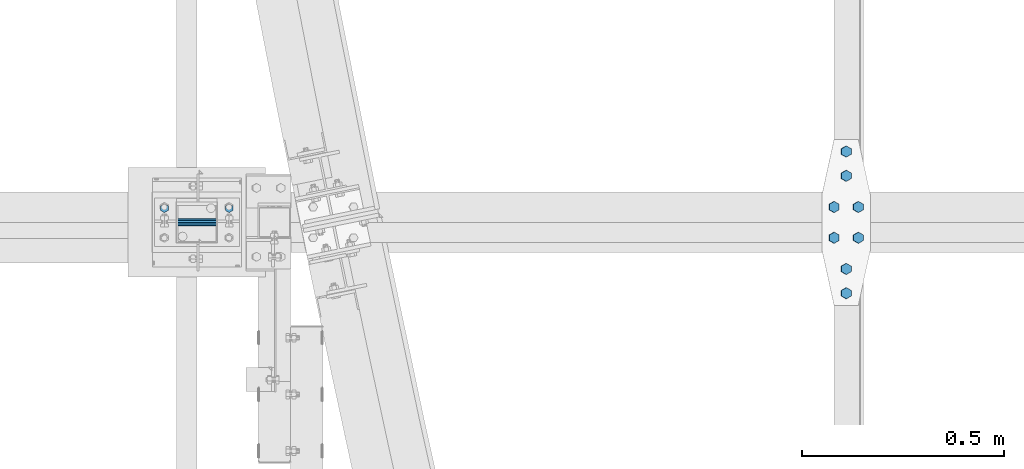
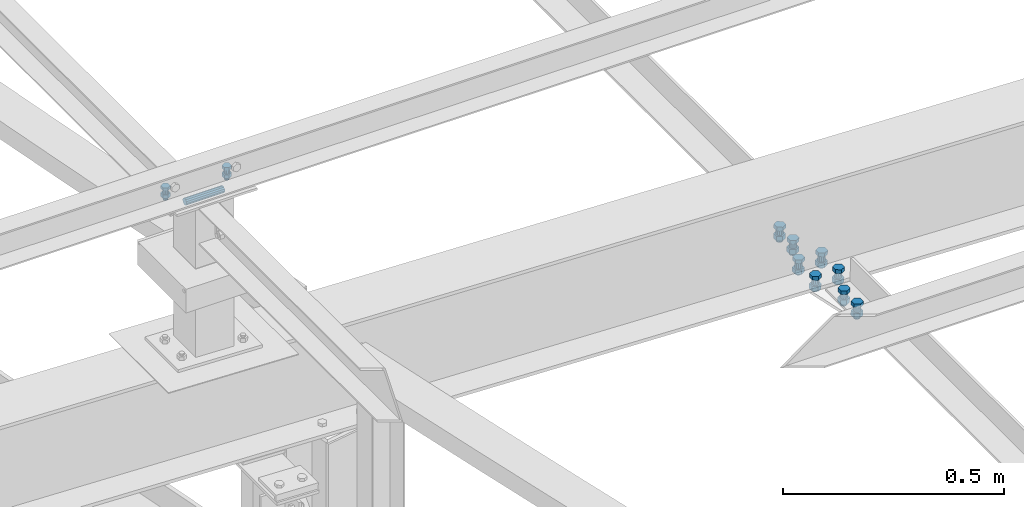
# One storey, part 67 of 3134: 5 mechanical fasteners, 4 elements without a shape of their own.
"""IFC2X3 building model written with IfcOpenShell, lengths in millimetres."""

from ifc_helpers import new_model, si_unit, frame, origin_with_axes, place, context, subcontext, project, spatial, faceted_brep, source, transform, mapped, material, type_object, element, aggregate, save


model = new_model("IFC2X3")

# Units and contexts
model_context = context("Model", 3, precision=1e-05, world=origin_with_axes())
body_context = subcontext(model_context, "Body", "Model", "MODEL_VIEW")
ifc_project = project(units=[si_unit("LENGTHUNIT", "METRE", prefix="MILLI"), si_unit("AREAUNIT", "SQUARE_METRE"), si_unit("VOLUMEUNIT", "CUBIC_METRE"), si_unit("MASSUNIT", "GRAM", prefix="KILO"), si_unit("TIMEUNIT", "SECOND"), si_unit("PLANEANGLEUNIT", "RADIAN"), si_unit("SOLIDANGLEUNIT", "STERADIAN"), si_unit("THERMODYNAMICTEMPERATUREUNIT", "DEGREE_CELSIUS"), si_unit("LUMINOUSINTENSITYUNIT", "LUMEN")], contexts=[model_context])

# Site, building, storey
site_placement = place(None, origin_with_axes())
site = spatial("IfcSite", under=ifc_project, at=site_placement, CompositionType="ELEMENT")
building_placement = place(site_placement, origin_with_axes())
building = spatial("IfcBuilding", under=site, at=building_placement, Name="Undefined", CompositionType="ELEMENT")
storey_placement = place(building_placement, origin_with_axes())
storey = spatial("IfcBuildingStorey", under=building, at=storey_placement, Name="Undefined", CompositionType="ELEMENT", Elevation=0.0)

# Assembly, mechanical fastener
assembly_1_placement = place(storey_placement, origin_with_axes())
assembly_1 = element("IfcElementAssembly", 1, at=assembly_1_placement, inside=storey, AssemblyPlace="NOTDEFINED", PredefinedType="RIGID_FRAME")
ifc_material = material(Name="8.8")
mechanical_fastener_type = type_object("IfcMechanicalFastenerType", Name="Bolt assembly")
shared_shape_1 = source(origin_with_axes(), body_context, "Body", "Brep", [
    faceted_brep([(10.9696551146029, -14.0, 0.0), (5.48482755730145, -14.0, 9.5), (-5.48482755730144, -14.0, 9.5), (-10.9696551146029, -14.0, 1.34339530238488e-15), (-5.48482755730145, -14.0, -9.5), (5.48482755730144, -14.0, -9.50000000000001), (5.48482755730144, -6.0, -9.50000000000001), (-5.48482755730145, -6.0, -9.5), (-10.9696551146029, -6.0, 1.34339530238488e-15), (-5.48482755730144, -6.0, 9.5), (5.48482755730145, -6.0, 9.5), (10.9696551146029, -6.0, 0.0), (6.0, -6.0, 0.0), (5.19615242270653, -6.0, 3.00000000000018), (2.99999999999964, -6.0, 5.19615242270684), (-6.21801588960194e-13, -6.0, 6.0), (-3.00000000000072, -6.0, 5.19615242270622), (-5.19615242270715, -6.0, 2.9999999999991), (-6.0, -6.0, -1.24360317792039e-12), (-5.19615242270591, -6.0, -3.00000000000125), (-2.99999999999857, -6.0, -5.19615242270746), (1.85874342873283e-12, -6.0, -6.0), (3.00000000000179, -6.0, -5.1961524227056), (5.19615242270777, -6.0, -2.99999999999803), (5.19615242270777, 24.0, -2.99999999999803), (3.00000000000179, 24.0, -5.1961524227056), (1.85874342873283e-12, 24.0, -6.0), (-2.99999999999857, 24.0, -5.19615242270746), (-5.19615242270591, 24.0, -3.00000000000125), (-6.0, 24.0, -1.24360317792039e-12), (-5.19615242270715, 24.0, 2.9999999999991), (-3.00000000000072, 24.0, 5.19615242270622), (-6.21801588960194e-13, 24.0, 6.0), (2.99999999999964, 24.0, 5.19615242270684), (5.19615242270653, 24.0, 3.00000000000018), (6.0, 24.0, 0.0), (10.9696551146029, 6.00000000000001, 0.0), (5.48482755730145, 6.00000000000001, 9.5), (-5.48482755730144, 6.00000000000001, 9.5), (-10.9696551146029, 6.00000000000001, 1.34339530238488e-15), (-5.48482755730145, 6.00000000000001, -9.5), (5.48482755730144, 6.00000000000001, -9.50000000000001), (5.48482755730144, 16.0, -9.50000000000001), (-5.48482755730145, 16.0, -9.5), (-10.9696551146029, 16.0, 1.34339530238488e-15), (-5.48482755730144, 16.0, 9.5), (5.48482755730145, 16.0, 9.5), (10.9696551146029, 16.0, 0.0)], [[[0, 1, 2, 3, 4, 5]], [[6, 7, 8, 9, 10, 11]], [[0, 11, 10, 1]], [[1, 10, 9, 2]], [[2, 9, 8, 3]], [[3, 8, 7, 4]], [[4, 7, 6, 5]], [[5, 6, 11, 0]], [[12, 13, 14, 15, 16, 17, 18, 19, 20, 21, 22, 23]], [[24, 25, 26, 27, 28, 29, 30, 31, 32, 33, 34, 35]], [[12, 35, 34, 13]], [[13, 34, 33, 14]], [[14, 33, 32, 15]], [[15, 32, 31, 16]], [[16, 31, 30, 17]], [[17, 30, 29, 18]], [[18, 29, 28, 19]], [[19, 28, 27, 20]], [[20, 27, 26, 21]], [[21, 26, 25, 22]], [[22, 25, 24, 23]], [[23, 24, 35, 12]], [[36, 37, 38, 39, 40, 41]], [[42, 43, 44, 45, 46, 47]], [[36, 47, 46, 37]], [[37, 46, 45, 38]], [[38, 45, 44, 39]], [[39, 44, 43, 40]], [[40, 43, 42, 41]], [[41, 42, 47, 36]]]),
    faceted_brep([(7.0, -0.1, 0.0), (6.06217782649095, -0.1, 3.50000000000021), (3.49999999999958, -0.1, 6.06217782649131), (-7.25435187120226e-13, -0.1, 7.0), (-3.50000000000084, -0.1, 6.06217782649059), (-6.06217782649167, -0.1, 3.49999999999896), (-7.0, -0.1, -1.45087037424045e-12), (-6.06217782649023, -0.1, -3.50000000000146), (-3.49999999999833, -0.1, -6.06217782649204), (2.1685340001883e-12, -0.1, -7.0), (3.50000000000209, -0.1, -6.06217782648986), (6.0621778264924, -0.1, -3.4999999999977), (6.0621778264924, 6.00000000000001, -3.4999999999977), (3.50000000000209, 6.00000000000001, -6.06217782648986), (2.1685340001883e-12, 6.00000000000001, -7.0), (-3.49999999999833, 6.00000000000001, -6.06217782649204), (-6.06217782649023, 6.00000000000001, -3.50000000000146), (-7.0, 6.00000000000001, -1.45087037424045e-12), (-6.06217782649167, 6.00000000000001, 3.49999999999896), (-3.50000000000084, 6.00000000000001, 6.06217782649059), (-7.25435187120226e-13, 6.00000000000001, 7.0), (3.49999999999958, 6.00000000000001, 6.06217782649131), (6.06217782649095, 6.00000000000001, 3.50000000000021), (7.0, 6.00000000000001, 0.0), (7.0, -5.9, 0.0), (6.06217782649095, -5.9, 3.50000000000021), (3.49999999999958, -5.9, 6.06217782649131), (-7.25435187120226e-13, -5.9, 7.0), (-3.50000000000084, -5.9, 6.06217782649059), (-6.06217782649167, -5.9, 3.49999999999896), (-7.0, -5.9, -1.45087037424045e-12), (-6.06217782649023, -5.9, -3.50000000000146), (-3.49999999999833, -5.9, -6.06217782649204), (2.1685340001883e-12, -5.9, -7.0), (3.50000000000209, -5.9, -6.06217782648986), (6.0621778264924, -5.9, -3.4999999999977), (6.0621778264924, 0.0999999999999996, -3.4999999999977), (3.50000000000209, 0.0999999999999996, -6.06217782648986), (2.1685340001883e-12, 0.0999999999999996, -7.0), (-3.49999999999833, 0.0999999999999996, -6.06217782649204), (-6.06217782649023, 0.0999999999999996, -3.50000000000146), (-7.0, 0.0999999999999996, -1.45087037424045e-12), (-6.06217782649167, 0.0999999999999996, 3.49999999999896), (-3.50000000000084, 0.0999999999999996, 6.06217782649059), (-7.25435187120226e-13, 0.0999999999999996, 7.0), (3.49999999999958, 0.0999999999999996, 6.06217782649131), (6.06217782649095, 0.0999999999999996, 3.50000000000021), (7.0, 0.0999999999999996, 0.0)], [[[0, 1, 2, 3, 4, 5, 6, 7, 8, 9, 10, 11]], [[12, 13, 14, 15, 16, 17, 18, 19, 20, 21, 22, 23]], [[0, 23, 22, 1]], [[1, 22, 21, 2]], [[2, 21, 20, 3]], [[3, 20, 19, 4]], [[4, 19, 18, 5]], [[5, 18, 17, 6]], [[6, 17, 16, 7]], [[7, 16, 15, 8]], [[8, 15, 14, 9]], [[9, 14, 13, 10]], [[10, 13, 12, 11]], [[11, 12, 23, 0]], [[24, 25, 26, 27, 28, 29, 30, 31, 32, 33, 34, 35]], [[36, 37, 38, 39, 40, 41, 42, 43, 44, 45, 46, 47]], [[24, 47, 46, 25]], [[25, 46, 45, 26]], [[26, 45, 44, 27]], [[27, 44, 43, 28]], [[28, 43, 42, 29]], [[29, 42, 41, 30]], [[30, 41, 40, 31]], [[31, 40, 39, 32]], [[32, 39, 38, 33]], [[33, 38, 37, 34]], [[34, 37, 36, 35]], [[35, 36, 47, 24]]]),
])
mechanical_fastener_1_placement = place(assembly_1_placement, frame((3043.33, 24547.5, 4365.0), z_axis=(1.0, 0.0, 0.0), x_axis=(0.0, -1.0, 0.0)))
mechanical_fastener_1 = element("IfcMechanicalFastener", 2, at=mechanical_fastener_1_placement, type_object=mechanical_fastener_type, material=ifc_material, Name="Bolt assembly", NominalDiameter=12.0, NominalLength=30.0, context=body_context, shape_type="MappedRepresentation", body=[
    mapped(shared_shape_1, transform((0.0, -5.32963895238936e-10, -79.9999999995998))),
    mapped(shared_shape_1, transform((0.0, 5.3114490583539e-10, 79.9999999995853))),
])
aggregate(assembly_1, [mechanical_fastener_1])

assembly_2_placement = place(storey_placement, origin_with_axes())
assembly_2 = element("IfcElementAssembly", 3, at=assembly_2_placement, inside=storey, Name="PL8", AssemblyPlace="NOTDEFINED", PredefinedType="RIGID_FRAME")
shared_shape_2 = source(origin_with_axes(), body_context, "Body", "Brep", [
    faceted_brep([(13.856406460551, -21.0000017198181, 0.0), (6.92820323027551, -21.0000017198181, 12.0), (-6.92820323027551, -21.0000017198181, 12.0), (-13.856406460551, -21.0000017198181, 1.69692038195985e-15), (-6.92820323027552, -21.0000017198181, -12.0), (6.9282032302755, -21.0000017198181, -12.0), (6.9282032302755, -11.0000017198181, -12.0), (-6.92820323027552, -11.0000017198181, -12.0), (-13.856406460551, -11.0000017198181, 1.69692038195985e-15), (-6.92820323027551, -11.0000017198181, 12.0), (6.92820323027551, -11.0000017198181, 12.0), (13.856406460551, -11.0000017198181, 0.0), (8.0, -11.0000017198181, 0.0), (6.92820323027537, -11.0000017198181, 4.00000000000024), (3.99999999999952, -11.0000017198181, 6.92820323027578), (-8.29068785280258e-13, -11.0000017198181, 8.0), (-4.00000000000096, -11.0000017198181, 6.92820323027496), (-6.9282032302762, -11.0000017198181, 3.99999999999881), (-8.0, -11.0000017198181, -1.65813757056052e-12), (-6.92820323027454, -11.0000017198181, -4.00000000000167), (-3.99999999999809, -11.0000017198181, -6.92820323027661), (2.47832457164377e-12, -11.0000017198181, -8.0), (4.00000000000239, -11.0000017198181, -6.92820323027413), (6.92820323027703, -11.0000017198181, -3.99999999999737), (6.92820323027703, 23.9999999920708, -3.99999999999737), (4.00000000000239, 23.9999999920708, -6.92820323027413), (2.47832457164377e-12, 23.9999999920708, -8.0), (-3.99999999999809, 23.9999999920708, -6.92820323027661), (-6.92820323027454, 23.9999999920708, -4.00000000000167), (-8.0, 23.9999999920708, -1.65813757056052e-12), (-6.9282032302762, 23.9999999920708, 3.99999999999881), (-4.00000000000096, 23.9999999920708, 6.92820323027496), (-8.29068785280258e-13, 23.9999999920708, 8.0), (3.99999999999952, 23.9999999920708, 6.92820323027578), (6.92820323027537, 23.9999999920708, 4.00000000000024), (8.0, 23.9999999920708, 0.0), (13.856406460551, 3.99999999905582, 0.0), (6.92820323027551, 3.99999999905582, 12.0), (-6.92820323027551, 3.99999999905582, 12.0), (-13.856406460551, 3.99999999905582, 1.69692038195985e-15), (-6.92820323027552, 3.99999999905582, -12.0), (6.9282032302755, 3.99999999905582, -12.0), (6.9282032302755, 16.9999999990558, -12.0), (-6.92820323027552, 16.9999999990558, -12.0), (-13.856406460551, 16.9999999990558, 1.69692038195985e-15), (-6.92820323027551, 16.9999999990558, 12.0), (6.92820323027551, 16.9999999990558, 12.0), (13.856406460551, 16.9999999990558, 0.0)], [[[0, 1, 2, 3, 4, 5]], [[6, 7, 8, 9, 10, 11]], [[0, 11, 10, 1]], [[1, 10, 9, 2]], [[2, 9, 8, 3]], [[3, 8, 7, 4]], [[4, 7, 6, 5]], [[5, 6, 11, 0]], [[12, 13, 14, 15, 16, 17, 18, 19, 20, 21, 22, 23]], [[24, 25, 26, 27, 28, 29, 30, 31, 32, 33, 34, 35]], [[12, 35, 34, 13]], [[13, 34, 33, 14]], [[14, 33, 32, 15]], [[15, 32, 31, 16]], [[16, 31, 30, 17]], [[17, 30, 29, 18]], [[18, 29, 28, 19]], [[19, 28, 27, 20]], [[20, 27, 26, 21]], [[21, 26, 25, 22]], [[22, 25, 24, 23]], [[23, 24, 35, 12]], [[36, 37, 38, 39, 40, 41]], [[42, 43, 44, 45, 46, 47]], [[36, 47, 46, 37]], [[37, 46, 45, 38]], [[38, 45, 44, 39]], [[39, 44, 43, 40]], [[40, 43, 42, 41]], [[41, 42, 47, 36]]]),
    faceted_brep([(9.0, -10.9000017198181, 0.0), (7.79422863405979, -10.9000017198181, 4.50000000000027), (4.49999999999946, -10.9000017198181, 7.79422863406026), (-9.3270238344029e-13, -10.9000017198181, 9.0), (-4.50000000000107, -10.9000017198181, 7.79422863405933), (-7.79422863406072, -10.9000017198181, 4.49999999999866), (-9.0, -10.9000017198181, -1.86540476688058e-12), (-7.79422863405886, -10.9000017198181, -4.50000000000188), (-4.49999999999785, -10.9000017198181, -7.79422863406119), (2.78811514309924e-12, -10.9000017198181, -9.0), (4.50000000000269, -10.9000017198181, -7.7942286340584), (7.79422863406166, -10.9000017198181, -4.49999999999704), (7.79422863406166, -3.9, -4.49999999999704), (4.50000000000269, -3.9, -7.7942286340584), (2.78811514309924e-12, -3.9, -9.0), (-4.49999999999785, -3.9, -7.79422863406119), (-7.79422863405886, -3.9, -4.50000000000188), (-9.0, -3.9, -1.86540476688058e-12), (-7.79422863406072, -3.9, 4.49999999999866), (-4.50000000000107, -3.9, 7.79422863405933), (-9.3270238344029e-13, -3.9, 9.0), (4.49999999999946, -3.9, 7.79422863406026), (7.79422863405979, -3.9, 4.50000000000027), (9.0, -3.9, 0.0), (9.0, -4.10000000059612, 0.0), (7.79422863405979, -4.10000000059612, 4.50000000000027), (4.49999999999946, -4.10000000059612, 7.79422863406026), (-9.3270238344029e-13, -4.10000000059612, 9.0), (-4.50000000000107, -4.10000000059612, 7.79422863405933), (-7.79422863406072, -4.10000000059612, 4.49999999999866), (-9.0, -4.10000000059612, -1.86540476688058e-12), (-7.79422863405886, -4.10000000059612, -4.50000000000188), (-4.49999999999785, -4.10000000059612, -7.79422863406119), (2.78811514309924e-12, -4.10000000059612, -9.0), (4.50000000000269, -4.10000000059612, -7.7942286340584), (7.79422863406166, -4.10000000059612, -4.49999999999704), (7.79422863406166, 4.00000375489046, -4.49999999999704), (4.50000000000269, 4.00000375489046, -7.7942286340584), (2.78811514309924e-12, 4.00000375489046, -9.0), (-4.49999999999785, 4.00000375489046, -7.79422863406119), (-7.79422863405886, 4.00000375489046, -4.50000000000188), (-9.0, 4.00000375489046, -1.86540476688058e-12), (-7.79422863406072, 4.00000375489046, 4.49999999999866), (-4.50000000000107, 4.00000375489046, 7.79422863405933), (-9.3270238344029e-13, 4.00000375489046, 9.0), (4.49999999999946, 4.00000375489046, 7.79422863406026), (7.79422863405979, 4.00000375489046, 4.50000000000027), (9.0, 4.00000375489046, 0.0)], [[[0, 1, 2, 3, 4, 5, 6, 7, 8, 9, 10, 11]], [[12, 13, 14, 15, 16, 17, 18, 19, 20, 21, 22, 23]], [[0, 23, 22, 1]], [[1, 22, 21, 2]], [[2, 21, 20, 3]], [[3, 20, 19, 4]], [[4, 19, 18, 5]], [[5, 18, 17, 6]], [[6, 17, 16, 7]], [[7, 16, 15, 8]], [[8, 15, 14, 9]], [[9, 14, 13, 10]], [[10, 13, 12, 11]], [[11, 12, 23, 0]], [[24, 25, 26, 27, 28, 29, 30, 31, 32, 33, 34, 35]], [[36, 37, 38, 39, 40, 41, 42, 43, 44, 45, 46, 47]], [[24, 47, 46, 25]], [[25, 46, 45, 26]], [[26, 45, 44, 27]], [[27, 44, 43, 28]], [[28, 43, 42, 29]], [[29, 42, 41, 30]], [[30, 41, 40, 31]], [[31, 40, 39, 32]], [[32, 39, 38, 33]], [[33, 38, 37, 34]], [[34, 37, 36, 35]], [[35, 36, 47, 24]]]),
])
mechanical_fastener_2_placement = place(assembly_2_placement, frame((4647.50483525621, 24627.5, 3576.15051900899), z_axis=(-0.999388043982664, 0.0, 0.0349791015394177), x_axis=(0.0, 1.0, 0.0)))
mechanical_fastener_2 = element("IfcMechanicalFastener", 4, at=mechanical_fastener_2_placement, type_object=mechanical_fastener_type, material=ifc_material, Name="Bolt assembly", NominalDiameter=16.0, NominalLength=35.0, context=body_context, shape_type="MappedRepresentation", body=[
    mapped(shared_shape_2, transform((0.0, 0.0, 0.0))),
    mapped(shared_shape_2, transform((59.9999999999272, 0.0, 5.40239852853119e-10))),
])

assembly_3_placement = place(storey_placement, origin_with_axes())
assembly_3 = element("IfcElementAssembly", 5, at=assembly_3_placement, inside=storey, AssemblyPlace="NOTDEFINED", PredefinedType="RIGID_FRAME")
shared_shape_3 = source(origin_with_axes(), body_context, "Body", "Brep", [
    faceted_brep([(13.856406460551, -21.0000017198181, 0.0), (6.92820323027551, -21.0000017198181, 12.0), (-6.92820323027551, -21.0000017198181, 12.0), (-13.856406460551, -21.0000017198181, 1.69692038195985e-15), (-6.92820323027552, -21.0000017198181, -12.0), (6.9282032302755, -21.0000017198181, -12.0), (6.9282032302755, -11.0000017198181, -12.0), (-6.92820323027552, -11.0000017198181, -12.0), (-13.856406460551, -11.0000017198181, 1.69692038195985e-15), (-6.92820323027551, -11.0000017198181, 12.0), (6.92820323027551, -11.0000017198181, 12.0), (13.856406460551, -11.0000017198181, 0.0), (8.0, -11.0000017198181, 0.0), (6.92820323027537, -11.0000017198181, 4.00000000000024), (3.99999999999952, -11.0000017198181, 6.92820323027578), (-8.29068785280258e-13, -11.0000017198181, 8.0), (-4.00000000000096, -11.0000017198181, 6.92820323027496), (-6.9282032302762, -11.0000017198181, 3.99999999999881), (-8.0, -11.0000017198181, -1.65813757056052e-12), (-6.92820323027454, -11.0000017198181, -4.00000000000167), (-3.99999999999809, -11.0000017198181, -6.92820323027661), (2.47832457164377e-12, -11.0000017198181, -8.0), (4.00000000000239, -11.0000017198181, -6.92820323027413), (6.92820323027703, -11.0000017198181, -3.99999999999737), (6.92820323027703, 23.9999999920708, -3.99999999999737), (4.00000000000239, 23.9999999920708, -6.92820323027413), (2.47832457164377e-12, 23.9999999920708, -8.0), (-3.99999999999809, 23.9999999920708, -6.92820323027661), (-6.92820323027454, 23.9999999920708, -4.00000000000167), (-8.0, 23.9999999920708, -1.65813757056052e-12), (-6.9282032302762, 23.9999999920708, 3.99999999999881), (-4.00000000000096, 23.9999999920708, 6.92820323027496), (-8.29068785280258e-13, 23.9999999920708, 8.0), (3.99999999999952, 23.9999999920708, 6.92820323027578), (6.92820323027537, 23.9999999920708, 4.00000000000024), (8.0, 23.9999999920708, 0.0), (13.856406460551, 3.99999999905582, 0.0), (6.92820323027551, 3.99999999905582, 12.0), (-6.92820323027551, 3.99999999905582, 12.0), (-13.856406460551, 3.99999999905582, 1.69692038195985e-15), (-6.92820323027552, 3.99999999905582, -12.0), (6.9282032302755, 3.99999999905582, -12.0), (6.9282032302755, 16.9999999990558, -12.0), (-6.92820323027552, 16.9999999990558, -12.0), (-13.856406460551, 16.9999999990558, 1.69692038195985e-15), (-6.92820323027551, 16.9999999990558, 12.0), (6.92820323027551, 16.9999999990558, 12.0), (13.856406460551, 16.9999999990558, 0.0)], [[[0, 1, 2, 3, 4, 5]], [[6, 7, 8, 9, 10, 11]], [[0, 11, 10, 1]], [[1, 10, 9, 2]], [[2, 9, 8, 3]], [[3, 8, 7, 4]], [[4, 7, 6, 5]], [[5, 6, 11, 0]], [[12, 13, 14, 15, 16, 17, 18, 19, 20, 21, 22, 23]], [[24, 25, 26, 27, 28, 29, 30, 31, 32, 33, 34, 35]], [[12, 35, 34, 13]], [[13, 34, 33, 14]], [[14, 33, 32, 15]], [[15, 32, 31, 16]], [[16, 31, 30, 17]], [[17, 30, 29, 18]], [[18, 29, 28, 19]], [[19, 28, 27, 20]], [[20, 27, 26, 21]], [[21, 26, 25, 22]], [[22, 25, 24, 23]], [[23, 24, 35, 12]], [[36, 37, 38, 39, 40, 41]], [[42, 43, 44, 45, 46, 47]], [[36, 47, 46, 37]], [[37, 46, 45, 38]], [[38, 45, 44, 39]], [[39, 44, 43, 40]], [[40, 43, 42, 41]], [[41, 42, 47, 36]]]),
    faceted_brep([(9.0, -4.10000000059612, 0.0), (7.79422863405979, -4.10000000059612, 4.50000000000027), (4.49999999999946, -4.10000000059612, 7.79422863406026), (-9.3270238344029e-13, -4.10000000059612, 9.0), (-4.50000000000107, -4.10000000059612, 7.79422863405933), (-7.79422863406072, -4.10000000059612, 4.49999999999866), (-9.0, -4.10000000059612, -1.86540476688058e-12), (-7.79422863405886, -4.10000000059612, -4.50000000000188), (-4.49999999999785, -4.10000000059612, -7.79422863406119), (2.78811514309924e-12, -4.10000000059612, -9.0), (4.50000000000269, -4.10000000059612, -7.7942286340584), (7.79422863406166, -4.10000000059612, -4.49999999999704), (7.79422863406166, 4.00000375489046, -4.49999999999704), (4.50000000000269, 4.00000375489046, -7.7942286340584), (2.78811514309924e-12, 4.00000375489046, -9.0), (-4.49999999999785, 4.00000375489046, -7.79422863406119), (-7.79422863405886, 4.00000375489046, -4.50000000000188), (-9.0, 4.00000375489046, -1.86540476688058e-12), (-7.79422863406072, 4.00000375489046, 4.49999999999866), (-4.50000000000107, 4.00000375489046, 7.79422863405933), (-9.3270238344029e-13, 4.00000375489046, 9.0), (4.49999999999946, 4.00000375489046, 7.79422863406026), (7.79422863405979, 4.00000375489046, 4.50000000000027), (9.0, 4.00000375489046, 0.0), (9.0, -10.9000017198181, 0.0), (7.79422863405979, -10.9000017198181, 4.50000000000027), (4.49999999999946, -10.9000017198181, 7.79422863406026), (-9.3270238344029e-13, -10.9000017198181, 9.0), (-4.50000000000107, -10.9000017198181, 7.79422863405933), (-7.79422863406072, -10.9000017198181, 4.49999999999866), (-9.0, -10.9000017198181, -1.86540476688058e-12), (-7.79422863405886, -10.9000017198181, -4.50000000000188), (-4.49999999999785, -10.9000017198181, -7.79422863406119), (2.78811514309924e-12, -10.9000017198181, -9.0), (4.50000000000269, -10.9000017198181, -7.7942286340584), (7.79422863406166, -10.9000017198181, -4.49999999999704), (7.79422863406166, -3.9, -4.49999999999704), (4.50000000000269, -3.9, -7.7942286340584), (2.78811514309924e-12, -3.9, -9.0), (-4.49999999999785, -3.9, -7.79422863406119), (-7.79422863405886, -3.9, -4.50000000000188), (-9.0, -3.9, -1.86540476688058e-12), (-7.79422863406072, -3.9, 4.49999999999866), (-4.50000000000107, -3.9, 7.79422863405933), (-9.3270238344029e-13, -3.9, 9.0), (4.49999999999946, -3.9, 7.79422863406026), (7.79422863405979, -3.9, 4.50000000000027), (9.0, -3.9, 0.0)], [[[0, 1, 2, 3, 4, 5, 6, 7, 8, 9, 10, 11]], [[12, 13, 14, 15, 16, 17, 18, 19, 20, 21, 22, 23]], [[0, 23, 22, 1]], [[1, 22, 21, 2]], [[2, 21, 20, 3]], [[3, 20, 19, 4]], [[4, 19, 18, 5]], [[5, 18, 17, 6]], [[6, 17, 16, 7]], [[7, 16, 15, 8]], [[8, 15, 14, 9]], [[9, 14, 13, 10]], [[10, 13, 12, 11]], [[11, 12, 23, 0]], [[24, 25, 26, 27, 28, 29, 30, 31, 32, 33, 34, 35]], [[36, 37, 38, 39, 40, 41, 42, 43, 44, 45, 46, 47]], [[24, 47, 46, 25]], [[25, 46, 45, 26]], [[26, 45, 44, 27]], [[27, 44, 43, 28]], [[28, 43, 42, 29]], [[29, 42, 41, 30]], [[30, 41, 40, 31]], [[31, 40, 39, 32]], [[32, 39, 38, 33]], [[33, 38, 37, 34]], [[34, 37, 36, 35]], [[35, 36, 47, 24]]]),
])
mechanical_fastener_3_placement = place(assembly_3_placement, frame((4647.50483526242, 24337.5, 3576.15051900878), z_axis=(-0.999388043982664, 0.0, 0.0349791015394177), x_axis=(0.0, 1.0, 0.0)))
mechanical_fastener_3 = element("IfcMechanicalFastener", 6, at=mechanical_fastener_3_placement, type_object=mechanical_fastener_type, material=ifc_material, Name="Bolt assembly", NominalDiameter=16.0, NominalLength=35.0, context=body_context, shape_type="MappedRepresentation", body=[
    mapped(shared_shape_3, transform((0.0, 0.0, 0.0))),
    mapped(shared_shape_3, transform((59.9999999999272, 0.0, 5.40239852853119e-10))),
])
aggregate(assembly_3, [mechanical_fastener_3])

# Mechanical fastener
shared_shape_4 = source(origin_with_axes(), body_context, "Body", "Brep", [
    faceted_brep([(13.856406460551, -23.2000817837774, 0.0), (6.92820323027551, -23.2000817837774, 12.0), (-6.92820323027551, -23.2000817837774, 12.0), (-13.856406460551, -23.2000817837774, 1.69692038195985e-15), (-6.92820323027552, -23.2000817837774, -12.0), (6.9282032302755, -23.2000817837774, -12.0), (6.9282032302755, -13.2000817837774, -12.0), (-6.92820323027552, -13.2000817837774, -12.0), (-13.856406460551, -13.2000817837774, 1.69692038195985e-15), (-6.92820323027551, -13.2000817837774, 12.0), (6.92820323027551, -13.2000817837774, 12.0), (13.856406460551, -13.2000817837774, 0.0), (8.0, -13.2000817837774, 0.0), (6.92820323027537, -13.2000817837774, 4.00000000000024), (3.99999999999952, -13.2000817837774, 6.92820323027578), (-8.29068785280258e-13, -13.2000817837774, 8.0), (-4.00000000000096, -13.2000817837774, 6.92820323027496), (-6.9282032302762, -13.2000817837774, 3.99999999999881), (-8.0, -13.2000817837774, -1.65813757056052e-12), (-6.92820323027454, -13.2000817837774, -4.00000000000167), (-3.99999999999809, -13.2000817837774, -6.92820323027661), (2.47832457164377e-12, -13.2000817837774, -8.0), (4.00000000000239, -13.2000817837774, -6.92820323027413), (6.92820323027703, -13.2000817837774, -3.99999999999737), (6.92820323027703, 21.7999182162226, -3.99999999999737), (4.00000000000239, 21.7999182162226, -6.92820323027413), (2.47832457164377e-12, 21.7999182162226, -8.0), (-3.99999999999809, 21.7999182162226, -6.92820323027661), (-6.92820323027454, 21.7999182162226, -4.00000000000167), (-8.0, 21.7999182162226, -1.65813757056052e-12), (-6.9282032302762, 21.7999182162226, 3.99999999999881), (-4.00000000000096, 21.7999182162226, 6.92820323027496), (-8.29068785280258e-13, 21.7999182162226, 8.0), (3.99999999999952, 21.7999182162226, 6.92820323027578), (6.92820323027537, 21.7999182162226, 4.00000000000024), (8.0, 21.7999182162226, 0.0), (13.856406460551, 3.99999999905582, 0.0), (6.92820323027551, 3.99999999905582, 12.0), (-6.92820323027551, 3.99999999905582, 12.0), (-13.856406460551, 3.99999999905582, 1.69692038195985e-15), (-6.92820323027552, 3.99999999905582, -12.0), (6.9282032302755, 3.99999999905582, -12.0), (6.9282032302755, 16.9999999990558, -12.0), (-6.92820323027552, 16.9999999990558, -12.0), (-13.856406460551, 16.9999999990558, 1.69692038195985e-15), (-6.92820323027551, 16.9999999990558, 12.0), (6.92820323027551, 16.9999999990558, 12.0), (13.856406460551, 16.9999999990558, 0.0)], [[[0, 1, 2, 3, 4, 5]], [[6, 7, 8, 9, 10, 11]], [[0, 11, 10, 1]], [[1, 10, 9, 2]], [[2, 9, 8, 3]], [[3, 8, 7, 4]], [[4, 7, 6, 5]], [[5, 6, 11, 0]], [[12, 13, 14, 15, 16, 17, 18, 19, 20, 21, 22, 23]], [[24, 25, 26, 27, 28, 29, 30, 31, 32, 33, 34, 35]], [[12, 35, 34, 13]], [[13, 34, 33, 14]], [[14, 33, 32, 15]], [[15, 32, 31, 16]], [[16, 31, 30, 17]], [[17, 30, 29, 18]], [[18, 29, 28, 19]], [[19, 28, 27, 20]], [[20, 27, 26, 21]], [[21, 26, 25, 22]], [[22, 25, 24, 23]], [[23, 24, 35, 12]], [[36, 37, 38, 39, 40, 41]], [[42, 43, 44, 45, 46, 47]], [[36, 47, 46, 37]], [[37, 46, 45, 38]], [[38, 45, 44, 39]], [[39, 44, 43, 40]], [[40, 43, 42, 41]], [[41, 42, 47, 36]]]),
    faceted_brep([(9.0, -13.1000817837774, 0.0), (7.79422863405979, -13.1000817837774, 4.50000000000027), (4.49999999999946, -13.1000817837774, 7.79422863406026), (-9.3270238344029e-13, -13.1000817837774, 9.0), (-4.50000000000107, -13.1000817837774, 7.79422863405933), (-7.79422863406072, -13.1000817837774, 4.49999999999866), (-9.0, -13.1000817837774, -1.86540476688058e-12), (-7.79422863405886, -13.1000817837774, -4.50000000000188), (-4.49999999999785, -13.1000817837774, -7.79422863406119), (2.78811514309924e-12, -13.1000817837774, -9.0), (4.50000000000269, -13.1000817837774, -7.7942286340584), (7.79422863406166, -13.1000817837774, -4.49999999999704), (7.79422863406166, -3.90008197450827, -4.49999999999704), (4.50000000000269, -3.90008197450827, -7.7942286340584), (2.78811514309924e-12, -3.90008197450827, -9.0), (-4.49999999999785, -3.90008197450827, -7.79422863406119), (-7.79422863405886, -3.90008197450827, -4.50000000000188), (-9.0, -3.90008197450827, -1.86540476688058e-12), (-7.79422863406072, -3.90008197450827, 4.49999999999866), (-4.50000000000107, -3.90008197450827, 7.79422863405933), (-9.3270238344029e-13, -3.90008197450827, 9.0), (4.49999999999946, -3.90008197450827, 7.79422863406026), (7.79422863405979, -3.90008197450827, 4.50000000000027), (9.0, -3.90008197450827, 0.0), (9.0, -4.10000000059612, 0.0), (7.79422863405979, -4.10000000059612, 4.50000000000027), (4.49999999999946, -4.10000000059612, 7.79422863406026), (-9.3270238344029e-13, -4.10000000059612, 9.0), (-4.50000000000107, -4.10000000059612, 7.79422863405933), (-7.79422863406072, -4.10000000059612, 4.49999999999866), (-9.0, -4.10000000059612, -1.86540476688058e-12), (-7.79422863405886, -4.10000000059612, -4.50000000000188), (-4.49999999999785, -4.10000000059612, -7.79422863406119), (2.78811514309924e-12, -4.10000000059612, -9.0), (4.50000000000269, -4.10000000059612, -7.7942286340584), (7.79422863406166, -4.10000000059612, -4.49999999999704), (7.79422863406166, 4.00000375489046, -4.49999999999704), (4.50000000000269, 4.00000375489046, -7.7942286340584), (2.78811514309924e-12, 4.00000375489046, -9.0), (-4.49999999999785, 4.00000375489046, -7.79422863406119), (-7.79422863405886, 4.00000375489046, -4.50000000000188), (-9.0, 4.00000375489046, -1.86540476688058e-12), (-7.79422863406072, 4.00000375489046, 4.49999999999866), (-4.50000000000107, 4.00000375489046, 7.79422863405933), (-9.3270238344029e-13, 4.00000375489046, 9.0), (4.49999999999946, 4.00000375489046, 7.79422863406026), (7.79422863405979, 4.00000375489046, 4.50000000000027), (9.0, 4.00000375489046, 0.0)], [[[0, 1, 2, 3, 4, 5, 6, 7, 8, 9, 10, 11]], [[12, 13, 14, 15, 16, 17, 18, 19, 20, 21, 22, 23]], [[0, 23, 22, 1]], [[1, 22, 21, 2]], [[2, 21, 20, 3]], [[3, 20, 19, 4]], [[4, 19, 18, 5]], [[5, 18, 17, 6]], [[6, 17, 16, 7]], [[7, 16, 15, 8]], [[8, 15, 14, 9]], [[9, 14, 13, 10]], [[10, 13, 12, 11]], [[11, 12, 23, 0]], [[24, 25, 26, 27, 28, 29, 30, 31, 32, 33, 34, 35]], [[36, 37, 38, 39, 40, 41, 42, 43, 44, 45, 46, 47]], [[24, 47, 46, 25]], [[25, 46, 45, 26]], [[26, 45, 44, 27]], [[27, 44, 43, 28]], [[28, 43, 42, 29]], [[29, 42, 41, 30]], [[30, 41, 40, 31]], [[31, 40, 39, 32]], [[32, 39, 38, 33]], [[33, 38, 37, 34]], [[34, 37, 36, 35]], [[35, 36, 47, 24]]]),
])
mechanical_fastener_4_placement = place(assembly_2_placement, frame((4647.50483519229, 24474.5, 3576.15051900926), z_axis=(-0.999388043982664, 0.0, 0.0349791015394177), x_axis=(0.0, 1.0, 0.0)))
mechanical_fastener_4 = element("IfcMechanicalFastener", 7, at=mechanical_fastener_4_placement, type_object=mechanical_fastener_type, material=ifc_material, Name="Bolt assembly", NominalDiameter=16.0, NominalLength=35.0, context=body_context, shape_type="MappedRepresentation", body=[
    mapped(shared_shape_4, transform((0.0, 4.54747350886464e-13, -30.0000000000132))),
    mapped(shared_shape_4, transform((76.0, -2.00088834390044e-10, -29.9999999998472))),
    mapped(shared_shape_4, transform((0.0, 4.54747350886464e-13, 30.0000000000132))),
    mapped(shared_shape_4, transform((76.0, 1.98269844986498e-10, 29.9999999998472))),
])

aggregate(assembly_2, [mechanical_fastener_2, mechanical_fastener_4])

# Assembly, mechanical fastener
assembly_4_placement = place(storey_placement, origin_with_axes())
assembly_4 = element("IfcElementAssembly", 8, at=assembly_4_placement, inside=storey, AssemblyPlace="NOTDEFINED", PredefinedType="RIGID_FRAME")
shared_shape_5 = source(origin_with_axes(), body_context, "Body", "Brep", [
    faceted_brep([(9.0, -50.0, 0.0), (7.79422863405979, -50.0, 4.50000000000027), (4.49999999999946, -50.0, 7.79422863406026), (-9.3270238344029e-13, -50.0, 9.0), (-4.50000000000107, -50.0, 7.79422863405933), (-7.79422863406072, -50.0, 4.49999999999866), (-9.0, -50.0, -1.86540476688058e-12), (-7.79422863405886, -50.0, -4.50000000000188), (-4.49999999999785, -50.0, -7.79422863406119), (2.78811514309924e-12, -50.0, -9.0), (4.50000000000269, -50.0, -7.7942286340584), (7.79422863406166, -50.0, -4.49999999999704), (7.79422863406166, 50.1, -4.49999999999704), (4.50000000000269, 50.1, -7.7942286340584), (2.78811514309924e-12, 50.1, -9.0), (-4.49999999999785, 50.1, -7.79422863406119), (-7.79422863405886, 50.1, -4.50000000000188), (-9.0, 50.1, -1.86540476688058e-12), (-7.79422863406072, 50.1, 4.49999999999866), (-4.50000000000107, 50.1, 7.79422863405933), (-9.3270238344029e-13, 50.1, 9.0), (4.49999999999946, 50.1, 7.79422863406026), (7.79422863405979, 50.1, 4.50000000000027), (9.0, 50.1, 0.0)], [[[0, 1, 2, 3, 4, 5, 6, 7, 8, 9, 10, 11]], [[12, 13, 14, 15, 16, 17, 18, 19, 20, 21, 22, 23]], [[0, 23, 22, 1]], [[1, 22, 21, 2]], [[2, 21, 20, 3]], [[3, 20, 19, 4]], [[4, 19, 18, 5]], [[5, 18, 17, 6]], [[6, 17, 16, 7]], [[7, 16, 15, 8]], [[8, 15, 14, 9]], [[9, 14, 13, 10]], [[10, 13, 12, 11]], [[11, 12, 23, 0]]]),
])
mechanical_fastener_5_placement = place(assembly_4_placement, frame((3043.33, 24512.5, 4345.0), z_axis=(0.0, 1.0, 0.0), x_axis=(0.0, 0.0, 1.0)))
mechanical_fastener_5 = element("IfcMechanicalFastener", 9, at=mechanical_fastener_5_placement, type_object=mechanical_fastener_type, material=ifc_material, Name="Bolt assembly", NominalDiameter=16.0, NominalLength=100.0, context=body_context, shape_type="MappedRepresentation", body=[
    mapped(shared_shape_5, transform((0.0, 0.0, 0.0))),
])
aggregate(assembly_4, [mechanical_fastener_5])

save(model, "model.ifc")
